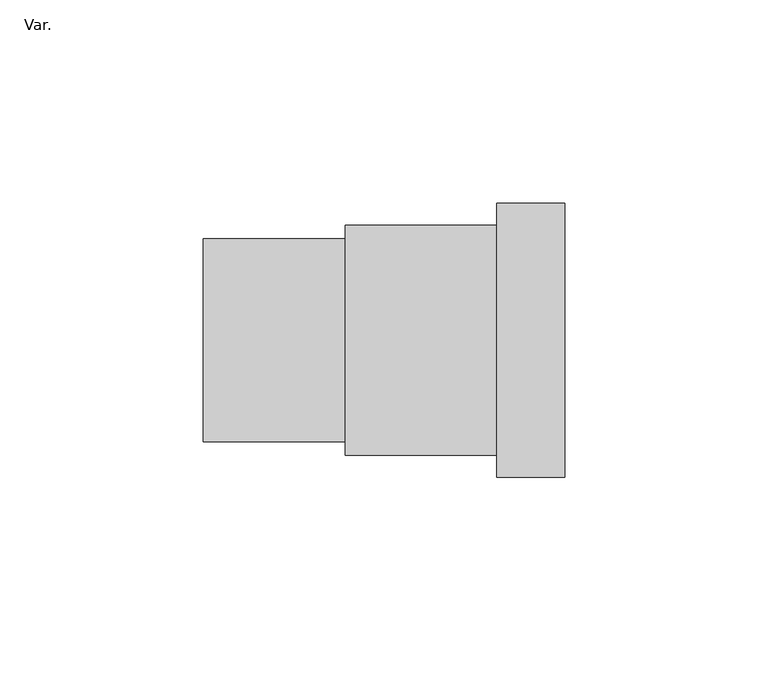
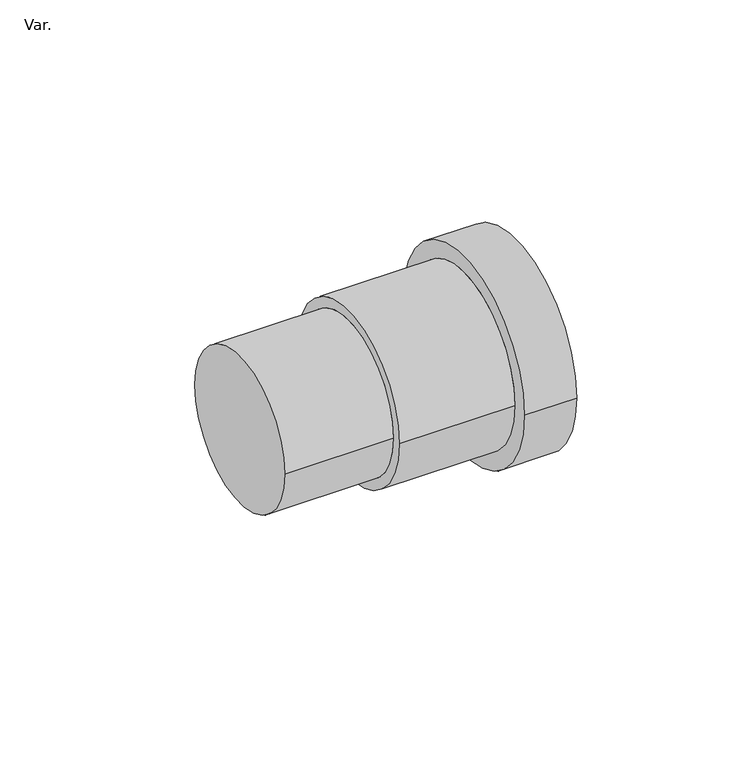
"""IFC4 building model written with IfcOpenShell, lengths in millimetres: pipe fitting geometry, NLRS_52_PIF_UN_HDPE plugin socket_Akatherm : Var.."""

from ifc_helpers import new_model, si_unit, frame, origin, place, context, project, spatial, circle_curve, source, transform, mapped, element, save
from ifc_brep_helpers import plane_surface, cylinder_surface, advanced_brep


def var_02c1ed2a(model_context):
    return source(origin(), model_context, "Body", "AdvancedBrep", [
        advanced_brep(
        [(71.0, -33.75, 0.0), (71.0, 33.75, 0.0), (17.0, -28.3, 0.0), (17.0, 28.3, 0.0), (17.0, -25.0, 0.0), (17.0, 25.0, 0.0), (54.2, 28.3, 0.0), (54.2, -28.3, 0.0), (54.2, -33.75, 0.0), (54.2, 33.75, 0.0), (-18.0, -25.0, 0.0), (-18.0, 25.0, 0.0)],
        [
            (0, 1, circle_curve(frame((71.0, 0.0, 0.0), z_axis=(1.0, 0.0, 0.0), x_axis=(0.0, 1.0, 0.0)), 33.75)),
            (1, 0, circle_curve(frame((71.0, 0.0, 0.0), z_axis=(1.0, 0.0, 0.0), x_axis=(0.0, 1.0, 0.0)), 33.75)),
            (2, 3, circle_curve(frame((17.0, 0.0, 0.0), z_axis=(-1.0, 0.0, 0.0), x_axis=(0.0, 1.0, 0.0)), 28.3)),
            (3, 2, circle_curve(frame((17.0, 0.0, 0.0), z_axis=(-1.0, 0.0, 0.0), x_axis=(0.0, 1.0, 0.0)), 28.3)),
            (4, 5, circle_curve(frame((17.0, 0.0, 0.0), z_axis=(1.0, 0.0, 0.0), x_axis=(0.0, 1.0, 0.0)), 25.0)),
            (5, 4, circle_curve(frame((17.0, 0.0, 0.0), z_axis=(1.0, 0.0, 0.0), x_axis=(0.0, 1.0, 0.0)), 25.0)),
            (3, 6),
            (6, 7, circle_curve(frame((54.2, 0.0, 0.0), z_axis=(-1.0, 0.0, 0.0), x_axis=(0.0, 1.0, 0.0)), 28.3)),
            (7, 2),
            (7, 6, circle_curve(frame((54.2, 0.0, 0.0), z_axis=(-1.0, 0.0, 0.0), x_axis=(0.0, 1.0, 0.0)), 28.3)),
            (8, 9, circle_curve(frame((54.2, 0.0, 0.0), z_axis=(-1.0, 0.0, 0.0), x_axis=(0.0, 1.0, 0.0)), 33.75)),
            (9, 8, circle_curve(frame((54.2, 0.0, 0.0), z_axis=(-1.0, 0.0, 0.0), x_axis=(0.0, 1.0, 0.0)), 33.75)),
            (0, 8),
            (9, 1),
            (10, 11, circle_curve(frame((-18.0, 0.0, 0.0), z_axis=(-1.0, 0.0, 0.0), x_axis=(0.0, 1.0, 0.0)), 25.0)),
            (11, 10, circle_curve(frame((-18.0, 0.0, 0.0), z_axis=(-1.0, 0.0, 0.0), x_axis=(0.0, 1.0, 0.0)), 25.0)),
            (11, 5),
            (4, 10),
        ],
        [
            plane_surface(frame((71.0, 28.3, 0.0), z_axis=(1.0, 0.0, 0.0), x_axis=(0.0, 0.0, 1.0))),
            plane_surface(frame((17.0, 28.3, 0.0), z_axis=(-1.0, 0.0, 0.0), x_axis=(0.0, 0.0, -1.0))),
            cylinder_surface(frame((17.0, 0.0, 0.0), z_axis=(1.0, 0.0, 0.0), x_axis=(0.0, 1.0, 0.0)), 28.3),
            plane_surface(frame((54.2, 33.75, 0.0), z_axis=(-1.0, 0.0, 0.0), x_axis=(0.0, 0.0, -1.0))),
            cylinder_surface(frame((54.2, 0.0, 0.0), z_axis=(1.0, 0.0, 0.0), x_axis=(0.0, 1.0, 0.0)), 33.75),
            plane_surface(frame((-18.0, 25.0, 0.0), z_axis=(-1.0, 0.0, 0.0), x_axis=(0.0, 0.0, -1.0))),
            cylinder_surface(frame((-18.0, 0.0, 0.0), z_axis=(1.0, 0.0, 0.0), x_axis=(0.0, 1.0, 0.0)), 25.0),
        ],
        [
            (0, [[1, 2]]),
            (1, [[3, 4], [5, 6]]),
            (2, [[-4, 7, 8, 9]]),
            (2, [[-3, -9, 10, -7]]),
            (3, [[11, 12], [-8, -10]]),
            (4, [[-1, 13, -12, 14]]),
            (4, [[-2, -14, -11, -13]]),
            (5, [[15, 16]]),
            (6, [[-16, 17, -5, 18]]),
            (6, [[-15, -18, -6, -17]]),
        ],
    ),
    ])


if __name__ == "__main__":
    model = new_model("IFC4")
    model_context = context("Model", 3, world=origin())
    ifc_project = project(units=[si_unit("LENGTHUNIT", "METRE", prefix="MILLI")], contexts=[model_context])
    site = spatial("IfcSite", under=ifc_project)
    building = spatial("IfcBuilding", under=site)
    placement = place(None, origin())
    var_shape = var_02c1ed2a(model_context)
    element("IfcPipeFitting", 1, ObjectType="NLRS_52_PIF_UN_HDPE plugin socket_Akatherm : Var.", at=placement, inside=building, context=model_context, shape_type="MappedRepresentation", body=[
        mapped(var_shape, transform((0.0, 0.0, 0.0), x_axis=(1.0, 0.0, 0.0), y_axis=(0.0, 1.0, 0.0), z_axis=(0.0, 0.0, 1.0))),
    ])
    save(model, "model.ifc")
